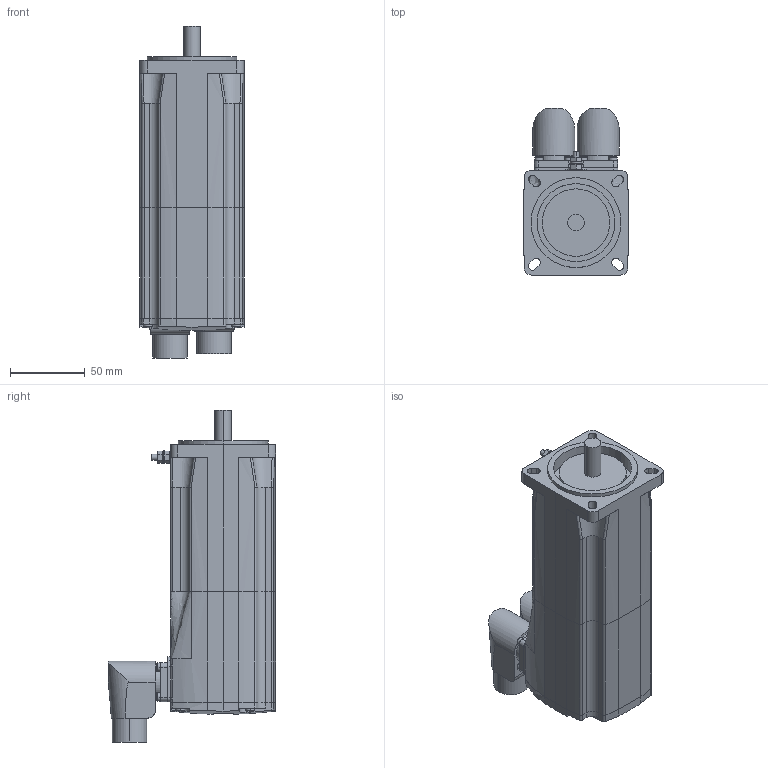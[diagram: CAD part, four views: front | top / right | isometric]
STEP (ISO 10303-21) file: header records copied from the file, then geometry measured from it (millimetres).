
FILE_DESCRIPTION (( 'STEP AP214' ), '1' );
FILE_NAME ('SH30701x0xF2100.STEP', '2013-11-29T07:54:32', ( 'Windows User' ), ( 'Schneider-Electric' ), 'SwSTEP 2.0', 'SolidWorks 2010', '' );
FILE_SCHEMA (( 'AUTOMOTIVE_DESIGN' ));
Length unit declared in the file: millimetre
Products named in the file (7): 1-100011014_K-TOPFGEHÄUSE SH3-BSH-070X_000_Topfgehäuse SH3-BSH-0701 ohne Passfeder; 1-100011011_K-ERDUNGSBOLZEN M4_000; 1-100010970_K-DECKEL MH3-070X_000_Deckel SH3-070x; 1-100008385_LAGERSCHILD SH3-0701+0702-F_VM0_Lagerschild SH3-0701+0702-F; K-POWER-CONINVERS-ABGEWIN_POWER-CONINVERS-ABGEWINKELT_000_mit Bremse; K-ENCODER-CONINVERS-ABGEW_ENCODER-CONINVERS-ABGEWINKELT_000_Single- MultiTurn; SH30701x0xF2100
Assembly tree (6 placements, depth 2):
  SH30701x0xF2100
    1-100010970_K-DECKEL MH3-070X_000_Deckel SH3-070x
    1-100008385_LAGERSCHILD SH3-0701+0702-F_VM0_Lagerschild SH3-0701+0702-F
    K-ENCODER-CONINVERS-ABGEW_ENCODER-CONINVERS-ABGEWINKELT_000_Single- MultiTurn
    K-POWER-CONINVERS-ABGEWIN_POWER-CONINVERS-ABGEWINKELT_000_mit Bremse
    1-100011011_K-ERDUNGSBOLZEN M4_000
    1-100011014_K-TOPFGEHÄUSE SH3-BSH-070X_000_Topfgehäuse SH3-BSH-0701 ohne Passfeder
Bounding box: 70 x 111.4 x 221.45 mm (x, y, z)
Volume: 844893.6 mm3; surface area: 94563.8 mm2
Topology: 6 solids, 14 shells, 464 faces, 1174 edges, 786 vertices
Faces by surface type: cylinder 223, plane 175, bspline 43, torus 16, cone 5, sphere 2
Entity records: 17336 total; most frequent: CARTESIAN_POINT 5934, ORIENTED_EDGE 2348, DIRECTION 2274, EDGE_CURVE 1174, AXIS2_PLACEMENT_3D 882, VERTEX_POINT 786, EDGE_LOOP 520, VECTOR 510
